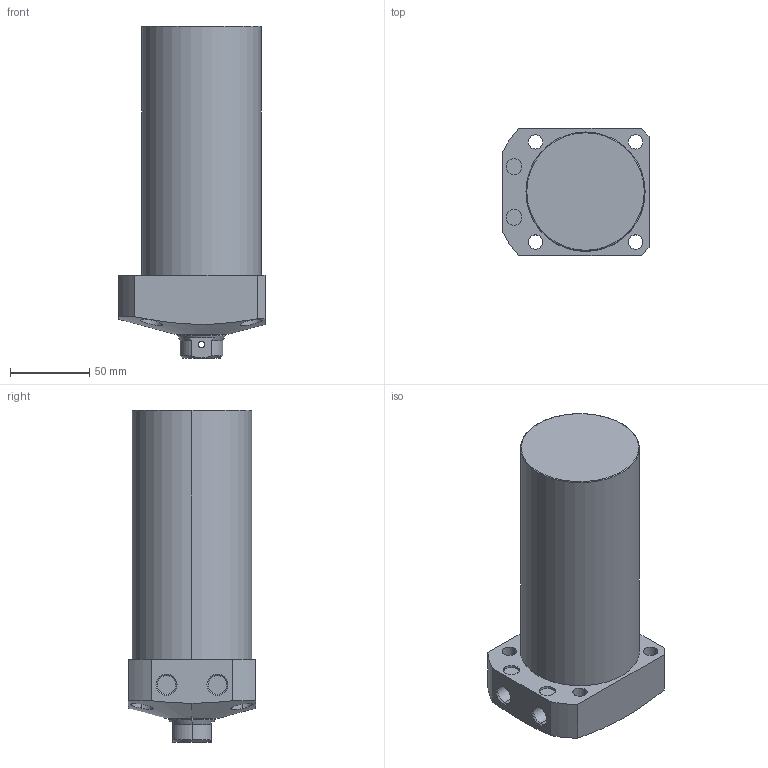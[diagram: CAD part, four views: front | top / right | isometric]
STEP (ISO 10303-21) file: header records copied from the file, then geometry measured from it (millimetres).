
FILE_DESCRIPTION (( 'STEP AP203' ), '1' );
FILE_NAME ('CLL-075CB-120.STEP', '2019-12-24T00:20:15', ( '' ), ( '' ), 'SwSTEP 2.0', 'SolidWorks 2015', '' );
FILE_SCHEMA (( 'CONFIG_CONTROL_DESIGN' ));
Length unit declared in the file: millimetre
Products named in the file (1): CLL-075CB-120
Bounding box: 92 x 80 x 209 mm (x, y, z)
Volume: 912535.2 mm3; surface area: 69405.4 mm2
Topology: 1 solids, 1 shells, 78 faces, 183 edges, 116 vertices
Faces by surface type: cylinder 39, plane 22, cone 15, torus 2
Entity records: 2862 total; most frequent: CARTESIAN_POINT 955, DIRECTION 396, ORIENTED_EDGE 362, EDGE_CURVE 181, AXIS2_PLACEMENT_3D 164, VERTEX_POINT 116, EDGE_LOOP 101, CIRCLE 85
